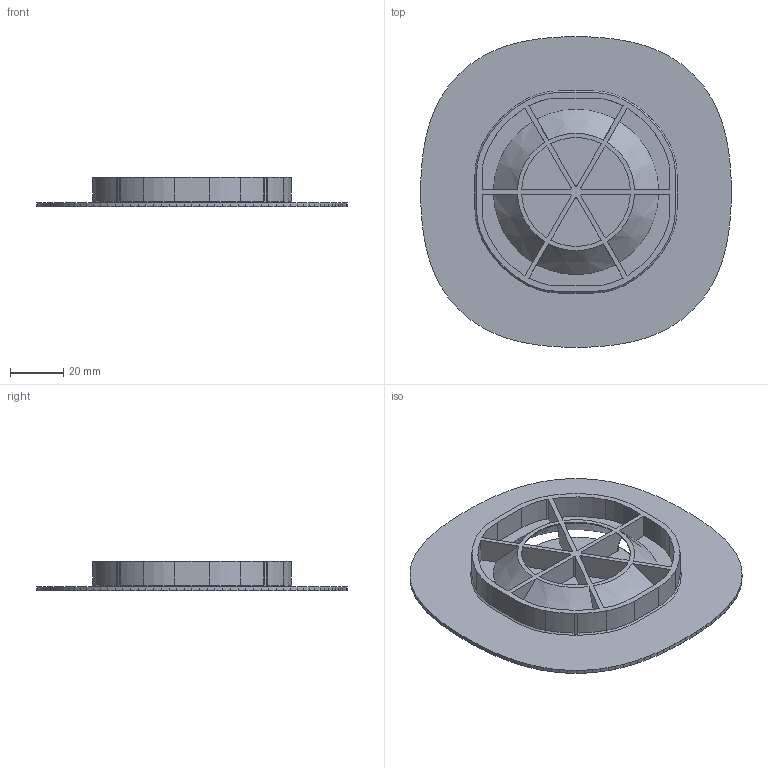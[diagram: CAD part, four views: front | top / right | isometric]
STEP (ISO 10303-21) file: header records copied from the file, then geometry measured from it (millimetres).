
FILE_DESCRIPTION(('STEP AP214'),'1');
FILE_NAME('fiat-shower-drain-cover2.step','2021-01-23T05:39:56',('Cubit 15.6'),(' '),'Spatial InterOp 3D',' ',' ');
FILE_SCHEMA(('AUTOMOTIVE_DESIGN { 1 0 10303 214 1 1 1 1 }'));
Length unit declared in the file: millimetre
Products named in the file (1): 1
Bounding box: 116.5 x 116.5 x 11 mm (x, y, z)
Volume: 27051.9 mm3; surface area: 33601.2 mm2
Topology: 1 solids, 1 shells, 263 faces, 763 edges, 505 vertices
Faces by surface type: plane 189, cylinder 44, cone 24, torus 6
Entity records: 9017 total; most frequent: CARTESIAN_POINT 2008, ORIENTED_EDGE 1526, DIRECTION 1392, EDGE_CURVE 763, LINE 582, VECTOR 582, VERTEX_POINT 505, AXIS2_PLACEMENT_3D 405
